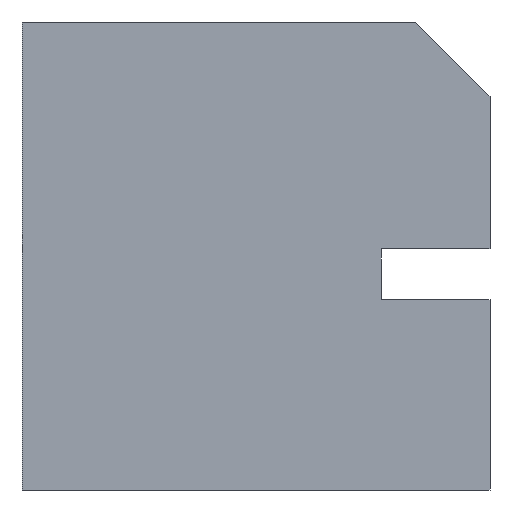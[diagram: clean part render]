
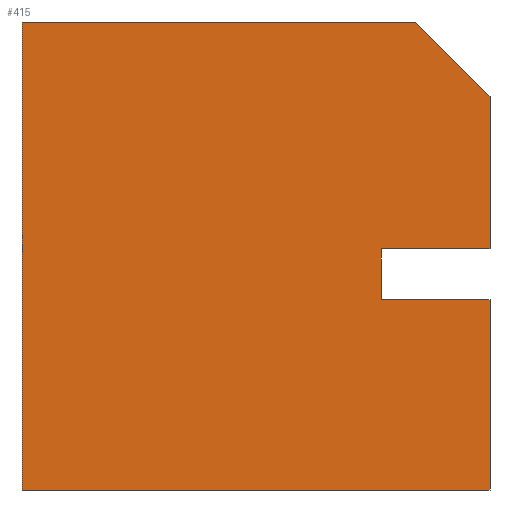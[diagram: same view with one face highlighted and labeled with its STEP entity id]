
A CAD part, left-side view. The second image highlights one B-rep face of the part: STEP entity #415.
In plain terms, the highlighted planar face has unit normal (-1, 0, 0).
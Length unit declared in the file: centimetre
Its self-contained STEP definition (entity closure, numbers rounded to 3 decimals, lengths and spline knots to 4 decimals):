
#3 = EDGE_CURVE ( 'NONE', #324, #157, #34, .T. ) ;
#7 = CARTESIAN_POINT ( 'NONE',  ( 0., 0., 0. ) ) ;
#11 = VECTOR ( 'NONE', #377, 100. ) ;
#15 = DIRECTION ( 'NONE',  ( 0., 0., 1. ) ) ;
#17 = EDGE_CURVE ( 'NONE', #230, #92, #126, .T. ) ;
#20 = VECTOR ( 'NONE', #389, 100. ) ;
#29 = ORIENTED_EDGE ( 'NONE', *, *, #222, .T. ) ;
#32 = AXIS2_PLACEMENT_3D ( 'NONE', #69, #267, #297 ) ;
#34 = LINE ( 'NONE', #191, #20 ) ;
#49 = CARTESIAN_POINT ( 'NONE',  ( 0., 1000., 1000. ) ) ;
#57 = VERTEX_POINT ( 'NONE', #7 ) ;
#58 = ORIENTED_EDGE ( 'NONE', *, *, #273, .F. ) ;
#69 = CARTESIAN_POINT ( 'NONE',  ( 0., 1000., 1000. ) ) ;
#77 = CARTESIAN_POINT ( 'NONE',  ( 0., 1000., 1000. ) ) ;
#79 = VECTOR ( 'NONE', #15, 100. ) ;
#80 = CARTESIAN_POINT ( 'NONE',  ( 0., 0., 515.3135 ) ) ;
#87 = DIRECTION ( 'NONE',  ( 0., 0., -1. ) ) ;
#92 = VERTEX_POINT ( 'NONE', #316 ) ;
#99 = EDGE_CURVE ( 'NONE', #155, #358, #413, .T. ) ;
#120 = DIRECTION ( 'NONE',  ( 0., -1., 0. ) ) ;
#126 = LINE ( 'NONE', #361, #378 ) ;
#127 = ORIENTED_EDGE ( 'NONE', *, *, #99, .T. ) ;
#130 = PLANE ( 'NONE',  #32 ) ;
#146 = CARTESIAN_POINT ( 'NONE',  ( 0., 0., 515.3135 ) ) ;
#148 = LINE ( 'NONE', #146, #328 ) ;
#151 = DIRECTION ( 'NONE',  ( 0., 1., 0. ) ) ;
#154 = LINE ( 'NONE', #288, #11 ) ;
#155 = VERTEX_POINT ( 'NONE', #173 ) ;
#157 = VERTEX_POINT ( 'NONE', #309 ) ;
#163 = FACE_OUTER_BOUND ( 'NONE', #386, .T. ) ;
#167 = CARTESIAN_POINT ( 'NONE',  ( 0., 0., 1000. ) ) ;
#168 = VECTOR ( 'NONE', #151, 100. ) ;
#173 = CARTESIAN_POINT ( 'NONE',  ( 0., 232.7142, 406.5851 ) ) ;
#175 = VECTOR ( 'NONE', #388, 100. ) ;
#178 = DIRECTION ( 'NONE',  ( 0., -1., 0. ) ) ;
#187 = ORIENTED_EDGE ( 'NONE', *, *, #301, .F. ) ;
#189 = VERTEX_POINT ( 'NONE', #311 ) ;
#191 = CARTESIAN_POINT ( 'NONE',  ( 0., 159.1091, 1000. ) ) ;
#193 = DIRECTION ( 'NONE',  ( 0., 0., -1. ) ) ;
#195 = EDGE_CURVE ( 'NONE', #92, #57, #254, .T. ) ;
#222 = EDGE_CURVE ( 'NONE', #189, #155, #340, .T. ) ;
#228 = LINE ( 'NONE', #167, #370 ) ;
#229 = EDGE_CURVE ( 'NONE', #358, #262, #148, .T. ) ;
#230 = VERTEX_POINT ( 'NONE', #49 ) ;
#231 = CARTESIAN_POINT ( 'NONE',  ( 0., 232.7142, 515.3135 ) ) ;
#251 = CARTESIAN_POINT ( 'NONE',  ( 0., 232.7142, 406.5851 ) ) ;
#252 = LINE ( 'NONE', #77, #418 ) ;
#253 = ORIENTED_EDGE ( 'NONE', *, *, #357, .F. ) ;
#254 = LINE ( 'NONE', #317, #175 ) ;
#256 = CARTESIAN_POINT ( 'NONE',  ( 0., 0., 406.5851 ) ) ;
#262 = VERTEX_POINT ( 'NONE', #80 ) ;
#265 = ORIENTED_EDGE ( 'NONE', *, *, #195, .T. ) ;
#267 = DIRECTION ( 'NONE',  ( 1., 0., 0. ) ) ;
#273 = EDGE_CURVE ( 'NONE', #230, #157, #252, .T. ) ;
#288 = CARTESIAN_POINT ( 'NONE',  ( 0., 0., 1000. ) ) ;
#297 = DIRECTION ( 'NONE',  ( 0., 0., -1. ) ) ;
#301 = EDGE_CURVE ( 'NONE', #324, #262, #154, .T. ) ;
#309 = CARTESIAN_POINT ( 'NONE',  ( 0., 159.1091, 1000. ) ) ;
#311 = CARTESIAN_POINT ( 'NONE',  ( 0., 0., 406.5851 ) ) ;
#316 = CARTESIAN_POINT ( 'NONE',  ( 0., 1000., 0. ) ) ;
#317 = CARTESIAN_POINT ( 'NONE',  ( 0., 1000., 0. ) ) ;
#324 = VERTEX_POINT ( 'NONE', #417 ) ;
#328 = VECTOR ( 'NONE', #120, 100. ) ;
#340 = LINE ( 'NONE', #256, #168 ) ;
#357 = EDGE_CURVE ( 'NONE', #189, #57, #228, .T. ) ;
#358 = VERTEX_POINT ( 'NONE', #231 ) ;
#361 = CARTESIAN_POINT ( 'NONE',  ( 0., 1000., 1000. ) ) ;
#370 = VECTOR ( 'NONE', #193, 100. ) ;
#377 = DIRECTION ( 'NONE',  ( 0., 0., -1. ) ) ;
#378 = VECTOR ( 'NONE', #87, 100. ) ;
#383 = ORIENTED_EDGE ( 'NONE', *, *, #229, .T. ) ;
#386 = EDGE_LOOP ( 'NONE', ( #253, #29, #127, #383, #187, #420, #58, #431, #265 ) ) ;
#388 = DIRECTION ( 'NONE',  ( 0., -1., 0. ) ) ;
#389 = DIRECTION ( 'NONE',  ( 0., 0.707, 0.707 ) ) ;
#413 = LINE ( 'NONE', #251, #79 ) ;
#415 = ADVANCED_FACE ( 'NONE', ( #163 ), #130, .F. ) ;
#417 = CARTESIAN_POINT ( 'NONE',  ( 0., 0., 840.8909 ) ) ;
#418 = VECTOR ( 'NONE', #178, 100. ) ;
#420 = ORIENTED_EDGE ( 'NONE', *, *, #3, .T. ) ;
#431 = ORIENTED_EDGE ( 'NONE', *, *, #17, .T. ) ;
